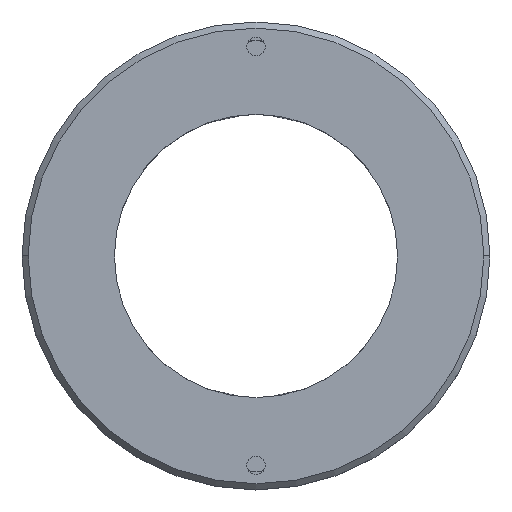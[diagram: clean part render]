
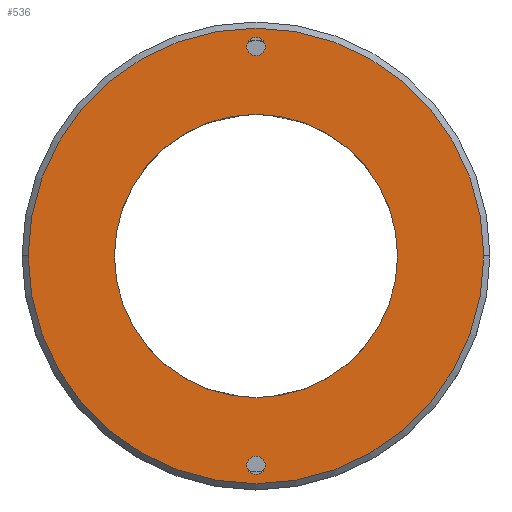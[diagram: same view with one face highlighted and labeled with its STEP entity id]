
A CAD part, top view. The second image highlights one B-rep face of the part: STEP entity #536.
In plain terms, the highlighted planar face has unit normal (0, 0, 1).
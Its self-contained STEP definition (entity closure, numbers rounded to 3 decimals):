
#6 = CARTESIAN_POINT ( 'NONE',  ( -1.362, 0.534, 22.154 ) ) ;
#29 = DIRECTION ( 'NONE',  ( 0., 0., 1. ) ) ;
#31 = CIRCLE ( 'NONE', #347, 0.75 ) ;
#39 = DIRECTION ( 'NONE',  ( 0., 0., 1. ) ) ;
#63 = CARTESIAN_POINT ( 'NONE',  ( -2.112, 17.534, 22.154 ) ) ;
#64 = VERTEX_POINT ( 'NONE', #732 ) ;
#65 = EDGE_CURVE ( 'NONE', #731, #901, #153, .T. ) ;
#80 = FACE_OUTER_BOUND ( 'NONE', #1005, .T. ) ;
#94 = CARTESIAN_POINT ( 'NONE',  ( 17.138, 0.534, 22.154 ) ) ;
#132 = DIRECTION ( 'NONE',  ( 1., 0., 0. ) ) ;
#134 = EDGE_CURVE ( 'NONE', #1134, #1101, #330, .T. ) ;
#153 = CIRCLE ( 'NONE', #387, 18.5 ) ;
#167 = CIRCLE ( 'NONE', #593, 0.75 ) ;
#233 = EDGE_CURVE ( 'NONE', #64, #1197, #167, .T. ) ;
#250 = CARTESIAN_POINT ( 'NONE',  ( -1.362, -16.466, 22.154 ) ) ;
#262 = ORIENTED_EDGE ( 'NONE', *, *, #1062, .F. ) ;
#264 = ORIENTED_EDGE ( 'NONE', *, *, #778, .F. ) ;
#304 = DIRECTION ( 'NONE',  ( -1., 0., 0. ) ) ;
#324 = DIRECTION ( 'NONE',  ( 0., 0., 1. ) ) ;
#330 = CIRCLE ( 'NONE', #735, 11.5 ) ;
#337 = EDGE_LOOP ( 'NONE', ( #734, #1204 ) ) ;
#338 = DIRECTION ( 'NONE',  ( 1., 0., 0. ) ) ;
#347 = AXIS2_PLACEMENT_3D ( 'NONE', #987, #367, #1088 ) ;
#351 = DIRECTION ( 'NONE',  ( -1., 0., 0. ) ) ;
#356 = AXIS2_PLACEMENT_3D ( 'NONE', #657, #39, #756 ) ;
#357 = CARTESIAN_POINT ( 'NONE',  ( -12.862, 0.534, 22.154 ) ) ;
#367 = DIRECTION ( 'NONE',  ( 0., 0., 1. ) ) ;
#387 = AXIS2_PLACEMENT_3D ( 'NONE', #1263, #29, #132 ) ;
#411 = DIRECTION ( 'NONE',  ( 0., 0., 1. ) ) ;
#413 = EDGE_LOOP ( 'NONE', ( #262, #264 ) ) ;
#424 = DIRECTION ( 'NONE',  ( 0., 0., 1. ) ) ;
#430 = DIRECTION ( 'NONE',  ( 1., 0., 0. ) ) ;
#438 = DIRECTION ( 'NONE',  ( 0., 0., 1. ) ) ;
#445 = EDGE_CURVE ( 'NONE', #901, #731, #1277, .T. ) ;
#494 = VERTEX_POINT ( 'NONE', #1251 ) ;
#534 = PLANE ( 'NONE',  #957 ) ;
#535 = DIRECTION ( 'NONE',  ( 0., 0., 1. ) ) ;
#536 = ADVANCED_FACE ( 'NONE', ( #80, #1150, #631, #1115 ), #534, .T. ) ;
#543 = CARTESIAN_POINT ( 'NONE',  ( -1.362, 0.534, 22.154 ) ) ;
#557 = CIRCLE ( 'NONE', #841, 0.75 ) ;
#561 = CARTESIAN_POINT ( 'NONE',  ( 10.138, 0.534, 22.154 ) ) ;
#593 = AXIS2_PLACEMENT_3D ( 'NONE', #1155, #535, #1257 ) ;
#631 = FACE_BOUND ( 'NONE', #757, .T. ) ;
#632 = CARTESIAN_POINT ( 'NONE',  ( -1.362, 0.534, 22.154 ) ) ;
#657 = CARTESIAN_POINT ( 'NONE',  ( -1.362, 0.534, 22.154 ) ) ;
#658 = CIRCLE ( 'NONE', #356, 11.5 ) ;
#659 = CARTESIAN_POINT ( 'NONE',  ( -2.112, -16.466, 22.154 ) ) ;
#731 = VERTEX_POINT ( 'NONE', #94 ) ;
#732 = CARTESIAN_POINT ( 'NONE',  ( -0.612, 17.534, 22.154 ) ) ;
#734 = ORIENTED_EDGE ( 'NONE', *, *, #969, .F. ) ;
#735 = AXIS2_PLACEMENT_3D ( 'NONE', #6, #324, #1036 ) ;
#756 = DIRECTION ( 'NONE',  ( 1., 0., 0. ) ) ;
#757 = EDGE_LOOP ( 'NONE', ( #1307, #945 ) ) ;
#765 = ORIENTED_EDGE ( 'NONE', *, *, #445, .T. ) ;
#778 = EDGE_CURVE ( 'NONE', #1018, #494, #849, .T. ) ;
#841 = AXIS2_PLACEMENT_3D ( 'NONE', #250, #976, #351 ) ;
#846 = AXIS2_PLACEMENT_3D ( 'NONE', #632, #424, #430 ) ;
#849 = CIRCLE ( 'NONE', #853, 0.75 ) ;
#853 = AXIS2_PLACEMENT_3D ( 'NONE', #1132, #411, #304 ) ;
#901 = VERTEX_POINT ( 'NONE', #1053 ) ;
#945 = ORIENTED_EDGE ( 'NONE', *, *, #1322, .F. ) ;
#957 = AXIS2_PLACEMENT_3D ( 'NONE', #543, #438, #338 ) ;
#969 = EDGE_CURVE ( 'NONE', #1101, #1134, #658, .T. ) ;
#976 = DIRECTION ( 'NONE',  ( 0., 0., 1. ) ) ;
#987 = CARTESIAN_POINT ( 'NONE',  ( -1.362, 17.534, 22.154 ) ) ;
#1005 = EDGE_LOOP ( 'NONE', ( #765, #1291 ) ) ;
#1018 = VERTEX_POINT ( 'NONE', #659 ) ;
#1036 = DIRECTION ( 'NONE',  ( 1., 0., 0. ) ) ;
#1053 = CARTESIAN_POINT ( 'NONE',  ( -19.862, 0.534, 22.154 ) ) ;
#1062 = EDGE_CURVE ( 'NONE', #494, #1018, #557, .T. ) ;
#1088 = DIRECTION ( 'NONE',  ( 1., 0., 0. ) ) ;
#1101 = VERTEX_POINT ( 'NONE', #561 ) ;
#1115 = FACE_BOUND ( 'NONE', #337, .T. ) ;
#1132 = CARTESIAN_POINT ( 'NONE',  ( -1.362, -16.466, 22.154 ) ) ;
#1134 = VERTEX_POINT ( 'NONE', #357 ) ;
#1150 = FACE_BOUND ( 'NONE', #413, .T. ) ;
#1155 = CARTESIAN_POINT ( 'NONE',  ( -1.362, 17.534, 22.154 ) ) ;
#1197 = VERTEX_POINT ( 'NONE', #63 ) ;
#1204 = ORIENTED_EDGE ( 'NONE', *, *, #134, .F. ) ;
#1251 = CARTESIAN_POINT ( 'NONE',  ( -0.612, -16.466, 22.154 ) ) ;
#1257 = DIRECTION ( 'NONE',  ( 1., 0., 0. ) ) ;
#1263 = CARTESIAN_POINT ( 'NONE',  ( -1.362, 0.534, 22.154 ) ) ;
#1277 = CIRCLE ( 'NONE', #846, 18.5 ) ;
#1291 = ORIENTED_EDGE ( 'NONE', *, *, #65, .T. ) ;
#1307 = ORIENTED_EDGE ( 'NONE', *, *, #233, .F. ) ;
#1322 = EDGE_CURVE ( 'NONE', #1197, #64, #31, .T. ) ;
